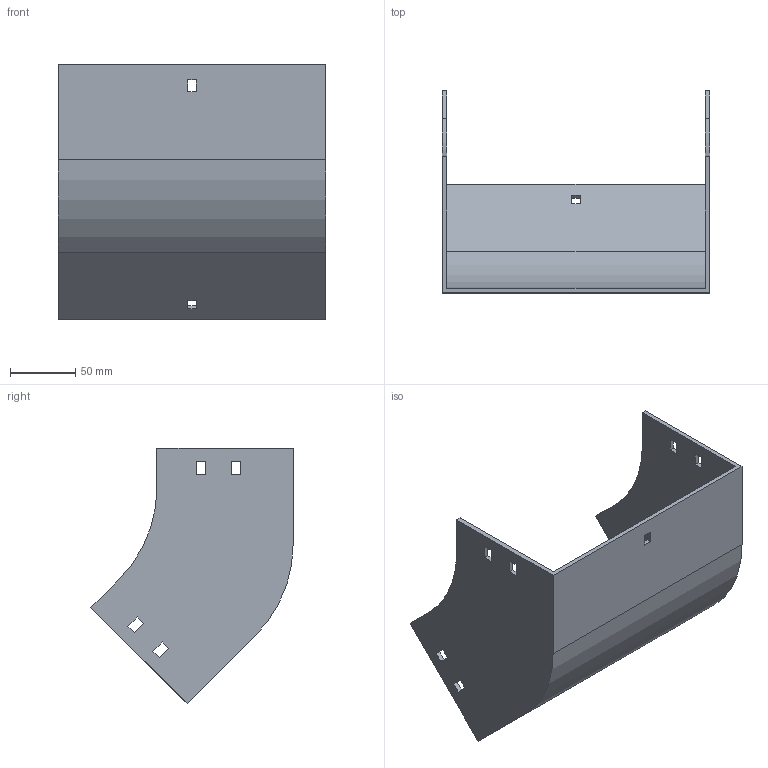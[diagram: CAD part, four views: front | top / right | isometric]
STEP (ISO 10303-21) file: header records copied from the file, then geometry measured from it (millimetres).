
FILE_DESCRIPTION (( 'STEP AP214' ), '1' );
FILE_NAME ('31F1D200.step', '2025-02-21T12:59:01', ( '' ), ( '' ), 'SwSTEP 2.0', 'SolidWorks 2023', '' );
FILE_SCHEMA (( 'AUTOMOTIVE_DESIGN' ));
Length unit declared in the file: millimetre
Products named in the file (1): 31F1D200
Bounding box: 204 x 154.5 x 195.46 mm (x, y, z)
Volume: 286961.3 mm3; surface area: 168961.3 mm2
Topology: 1 solids, 1 shells, 58 faces, 168 edges, 112 vertices
Faces by surface type: plane 54, cylinder 4
Entity records: 1943 total; most frequent: CARTESIAN_POINT 339, ORIENTED_EDGE 336, DIRECTION 294, EDGE_CURVE 168, LINE 160, VECTOR 160, VERTEX_POINT 112, EDGE_LOOP 78
